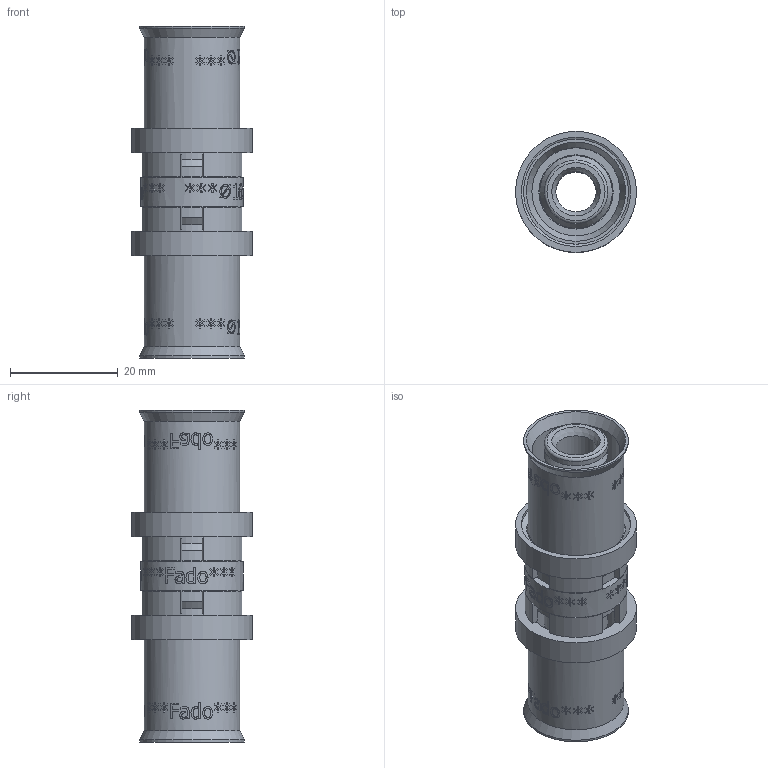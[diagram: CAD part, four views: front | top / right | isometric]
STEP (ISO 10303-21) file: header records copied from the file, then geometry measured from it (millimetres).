
FILE_DESCRIPTION(/* description */ (''),/* implementation_level */ '2;1');
FILE_NAME(/* name */ 'C:\Users\Doom\Desktop\Фадотех\Пресс\HDM01 Coupler 31.03.2020\HDM01 Coupler 31.03.2020.stp',/* time_stamp */ '2022-08-04T23:15:57+03:00',/* author */ ('Doom'),/* organization */ (''),/* preprocessor_version */ 'ST-DEVELOPER v18',/* originating_system */ 'Autodesk Inventor 2020',/* authorisation */ '');
FILE_SCHEMA (('AUTOMOTIVE_DESIGN { 1 0 10303 214 3 1 1 }'));
Products named in the file (6): HDM01 Coupler 31.03.2020; 16 Model 18.12.2019; 16 Model 18.12.2019_1; 16 Model 18.12.2019_2; 16 LDPE Seats 27.02.2020_ЗЕРКАЛО; 16 SUS Ferrules 27.02.2020_ЗЕРКАЛО
Assembly tree (5 placements, depth 2):
  HDM01 Coupler 31.03.2020
    16 Model 18.12.2019
    16 Model 18.12.2019_1
    16 Model 18.12.2019_2
    16 LDPE Seats 27.02.2020_ЗЕРКАЛО
    16 SUS Ferrules 27.02.2020_ЗЕРКАЛО
Bounding box: 22.5 x 22.5 x 61.7 mm (x, y, z)
Volume: 7896.9 mm3; surface area: 12972.8 mm2
Topology: 5 solids, 5 shells, 1382 faces, 3875 edges, 2606 vertices
Faces by surface type: bspline 875, plane 306, cylinder 163, cone 28, torus 10
Full cylindrical faces by diameter (mm): 7.5 x1, 9.5 x4, 10.3 x2, 11.8 x16, 12.5 x2, 12.6 x2, 13.5 x2, 13.8 x2, 16.4 x2, 17.8 x2, 18.3 x2, 19 x3, 19.2 x2, 19.5 x2, 20.3 x2, 22.5 x2
Entity records: 60572 total; most frequent: CARTESIAN_POINT 29549, ORIENTED_EDGE 7750, EDGE_CURVE 3875, DIRECTION 3803, VERTEX_POINT 2606, B_SPLINE_CURVE_WITH_KNOTS 1754, EDGE_LOOP 1511, LINE 1475
